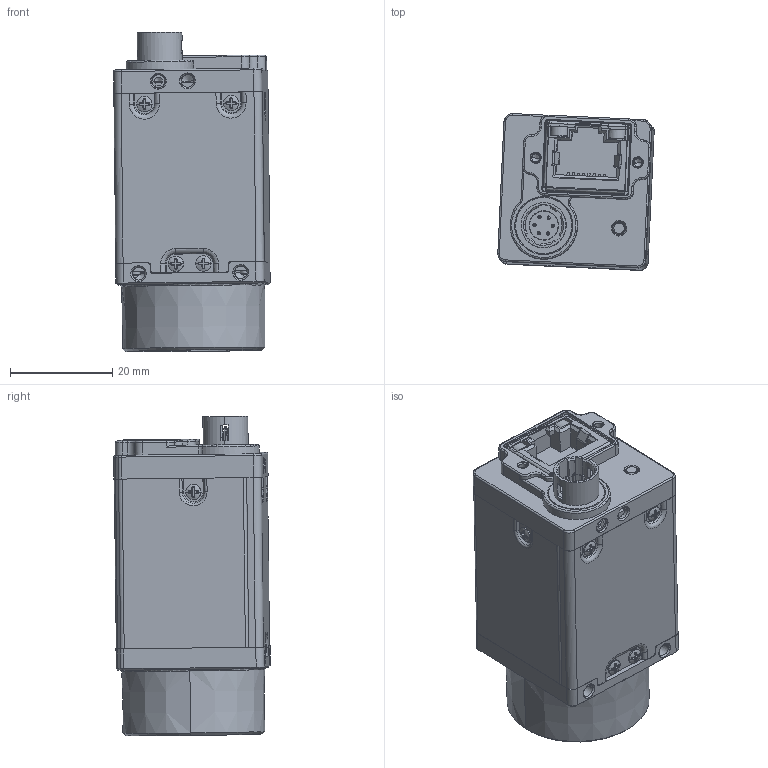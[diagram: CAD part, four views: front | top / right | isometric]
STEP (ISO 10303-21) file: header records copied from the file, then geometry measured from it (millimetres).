
FILE_DESCRIPTION((''),'2;1');
FILE_NAME('CU020_ASM','2021-08-20T17:02:56',('shengming'),(''),'CREO PARAMETRIC BY PTC INC, 2017260','CREO PARAMETRIC BY PTC INC, 2017260','');
FILE_SCHEMA(('CONFIG_CONTROL_DESIGN'));
Products named in the file (1): CU020_ASM
Bounding box: 30.6 x 30.62 x 62.52 mm (x, y, z)
Volume: 35639.7 mm3; surface area: 21723.4 mm2
Topology: 5 solids, 50 shells, 2381 faces, 6642 edges, 4284 vertices
Faces by surface type: plane 980, cylinder 592, cone 360, bspline 246, torus 173, sphere 30
Entity records: 96033 total; most frequent: CARTESIAN_POINT 37220, ORIENTED_EDGE 12811, DIRECTION 11547, EDGE_CURVE 6557, VERTEX_POINT 4284, AXIS2_PLACEMENT_3D 4271, VECTOR 3005, LINE 3005
